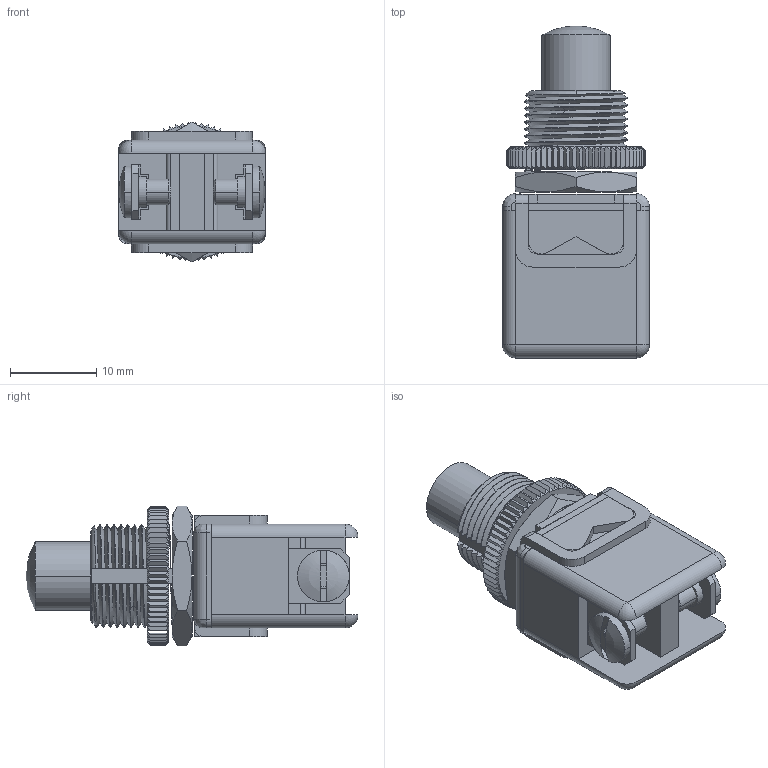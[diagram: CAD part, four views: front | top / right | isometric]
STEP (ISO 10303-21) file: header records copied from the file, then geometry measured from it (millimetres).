
FILE_DESCRIPTION((''),'2;1');
FILE_NAME('1223A2','2010-11-23T',('snouilhan'),(''),'PRO/ENGINEER BY PARAMETRIC TECHNOLOGY CORPORATION, 2009440','PRO/ENGINEER BY PARAMETRIC TECHNOLOGY CORPORATION, 2009440','');
FILE_SCHEMA(('CONFIG_CONTROL_DESIGN'));
Length unit declared in the file: millimetre
Products named in the file (1): 1223A2
Bounding box: 17 x 38.4 x 16.17 mm (x, y, z)
Surface area: 3692 mm2 (no closed solid volume)
Topology: 0 solids, 13 shells, 466 faces, 1487 edges, 1021 vertices
Faces by surface type: plane 226, cone 151, cylinder 48, bspline 28, sphere 10, torus 3
Entity records: 29209 total; most frequent: CARTESIAN_POINT 16831, ORIENTED_EDGE 2679, DIRECTION 2249, EDGE_CURVE 1485, VERTEX_POINT 1021, VECTOR 795, LINE 795, AXIS2_PLACEMENT_3D 727
